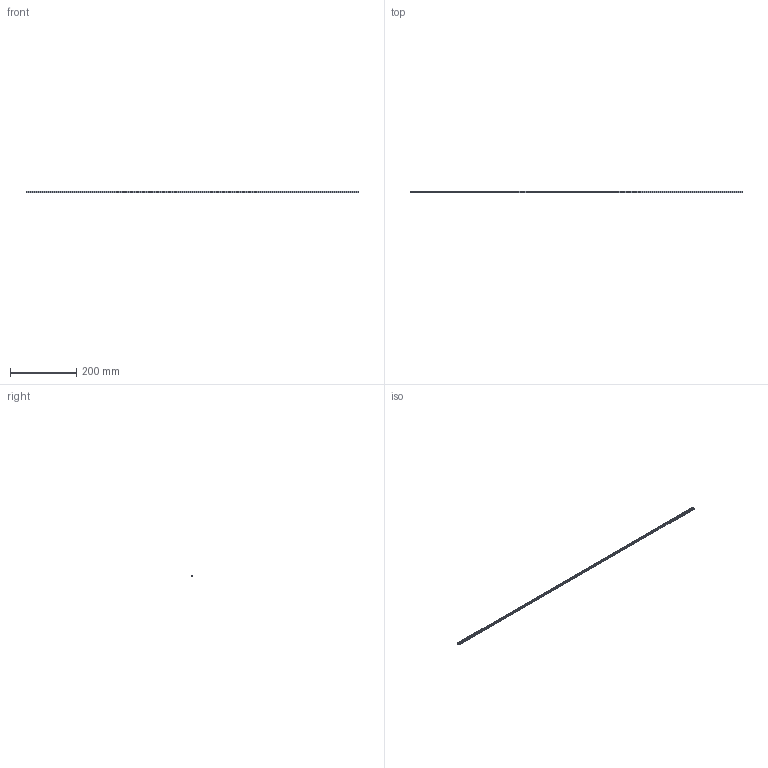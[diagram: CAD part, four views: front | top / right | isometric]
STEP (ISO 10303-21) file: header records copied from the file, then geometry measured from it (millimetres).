
FILE_DESCRIPTION (( 'STEP AP203' ), '1' );
FILE_NAME ('1004x-01-0000-00.STEP', '2018-03-02T09:45:51', ( '' ), ( '' ), 'SwSTEP 2.0', 'SolidWorks 2017', '' );
FILE_SCHEMA (( 'CONFIG_CONTROL_DESIGN' ));
Length unit declared in the file: millimetre
Products named in the file (1): 1004x-01-0000-00
Bounding box: 1000 x 6 x 6 mm (x, y, z)
Volume: 12802.7 mm3; surface area: 38598.3 mm2
Topology: 1 solids, 1 shells, 53 faces, 153 edges, 102 vertices
Faces by surface type: plane 28, cylinder 25
Entity records: 1840 total; most frequent: CARTESIAN_POINT 327, ORIENTED_EDGE 306, DIRECTION 305, EDGE_CURVE 153, AXIS2_PLACEMENT_3D 104, VERTEX_POINT 102, VECTOR 97, LINE 97
